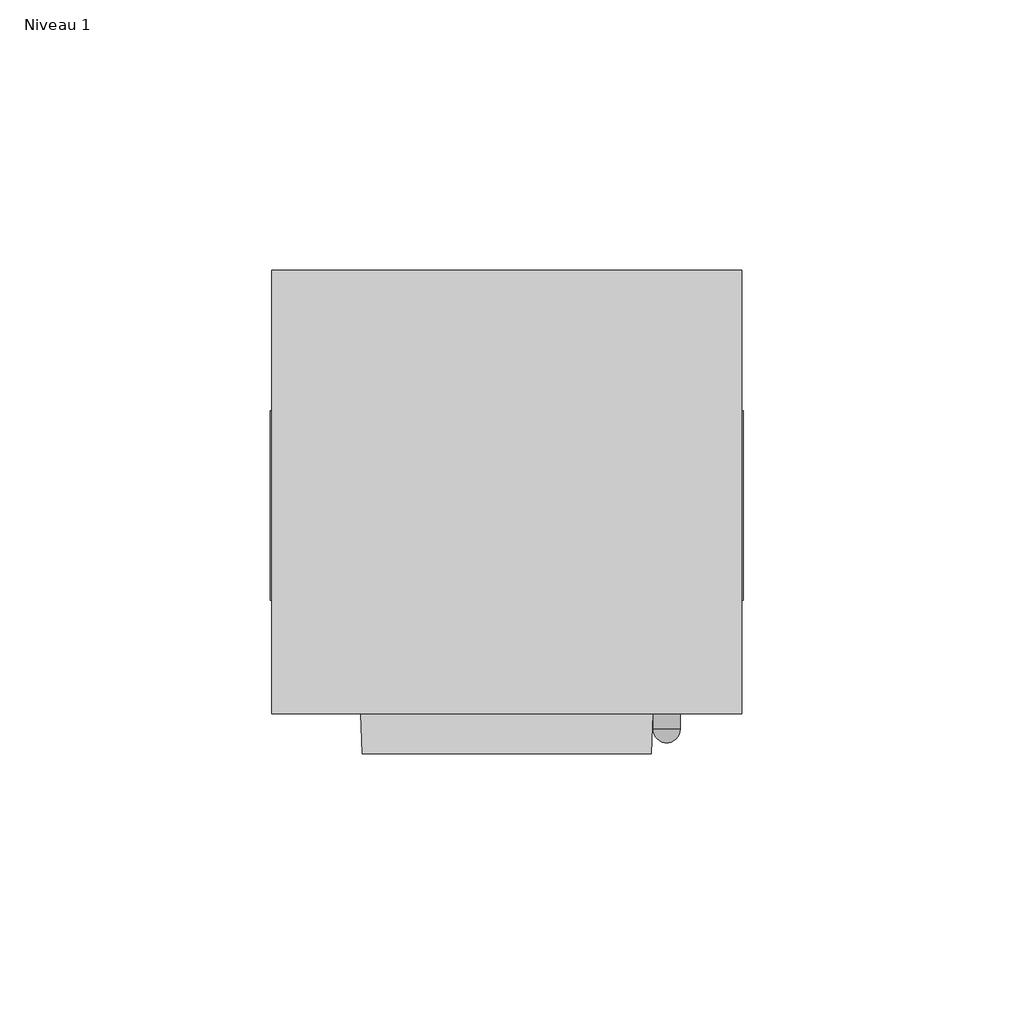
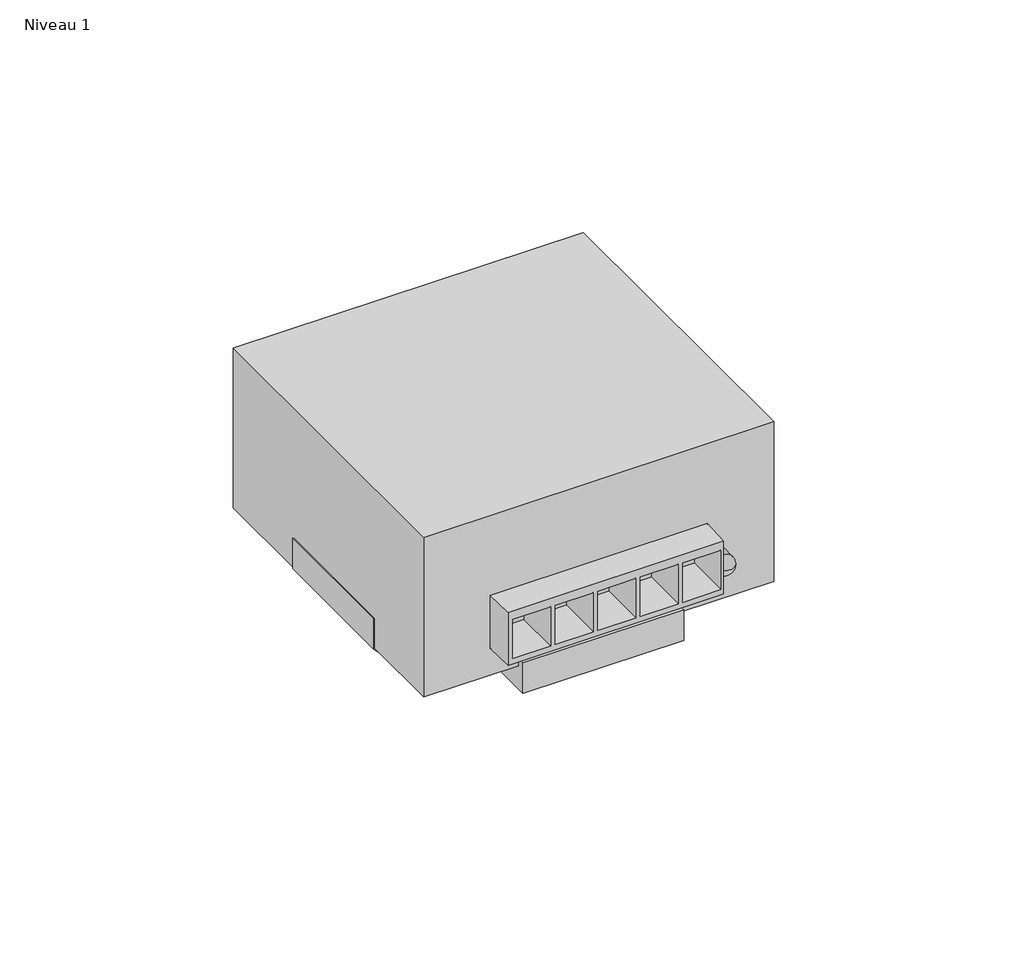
# One storey: 1 proxy.
"""IFC4 building model written with IfcOpenShell, lengths in millimetres."""

from ifc_helpers import new_model, si_unit, origin, place, context, project, spatial, transform, mapped, element, save
from components import electrical_equipment_a59f9a7e

model = new_model("IFC4")

# Units and contexts
model_context = context("Model", 3, world=origin())
ifc_project = project(units=[si_unit("LENGTHUNIT", "METRE", prefix="MILLI")], contexts=[model_context])

# Site, building, storey
site = spatial("IfcSite", under=ifc_project)
building = spatial("IfcBuilding", under=site)
storey = spatial("IfcBuildingStorey", under=building, Name="Niveau 1", Elevation=0.0)

# Proxy
placement = place(None, origin())
electrical_equipment_shape = electrical_equipment_a59f9a7e(model_context)
element("IfcBuildingElementProxy", 1, Name="CONVER MAT 24V 12V 6A 10A : CONVER MAT 24V 12V 6A 10A", ObjectType="CONVER MAT 24V 12V 6A 10A : CONVER MAT 24V 12V 6A 10A", at=placement, inside=storey, context=model_context, shape_type="MappedRepresentation", body=[
    mapped(electrical_equipment_shape, transform((-6732.9254077, 6699.0238615, 0.0), x_axis=(1.0, 0.0, 0.0), y_axis=(0.0, 1.0, 0.0), z_axis=(0.0, 0.0, 1.0))),
])

save(model, "model.ifc")
